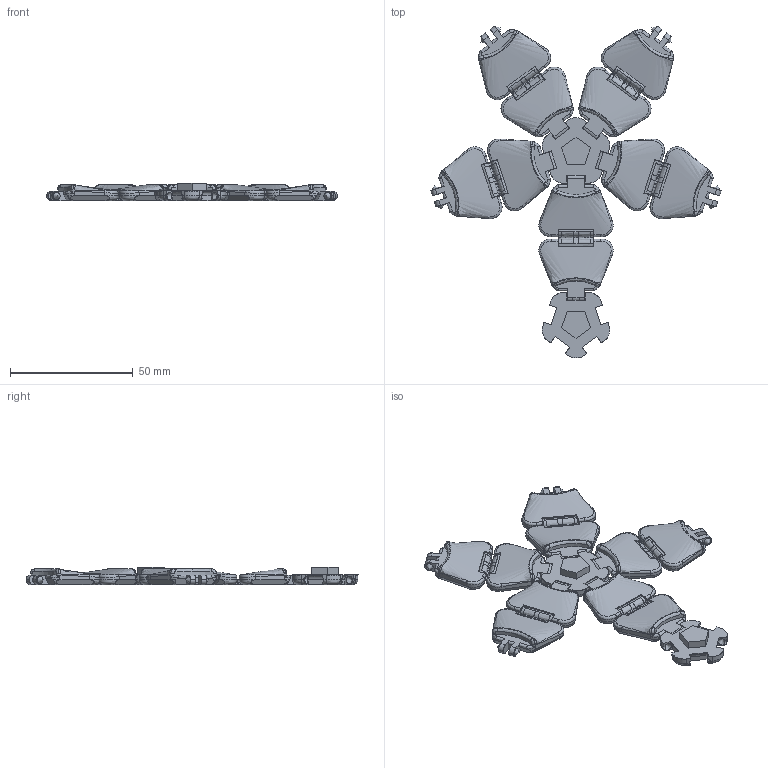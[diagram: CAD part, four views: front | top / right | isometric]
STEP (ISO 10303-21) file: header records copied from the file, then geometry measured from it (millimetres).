
FILE_DESCRIPTION(/* description */ ('STEP AP242 Edition 2','CAx-IF Rec.Pracs.---Representation and Presentation of Product Manufacturing Information (PMI)---4.0---2014-10-13','CAx-IF Rec.Pracs.---3D Tessellated Geometry---0.4---2014-09-14','2;1','CAx-IF Rec.Pracs.---User Defined Attributes---1.5---2016-08-15'),/* implementation_level */ '2;1');
FILE_NAME(/* name */ 'SquishyBallFidget',/* time_stamp */ '2026-04-27T13:48:57Z',/* author */ (''),/* organization */ (''),/* preprocessor_version */ 'ST-DEVELOPER v20',/* originating_system */ 'ONSHAPE BY PTC INC, 1.214',/* authorisation */ ' ');
FILE_SCHEMA (('AP242_MANAGED_MODEL_BASED_3D_ENGINEERING_MIM_LF { 1 0 10303 442 3 1 4 }'));
Products named in the file (17): Part 16; Part 1; Part 2; Part 3; Part 4; Part 5; Part 6; Part 7; Part 8; Part 9; Part 10; Part 11; Part 12; Part 13; Part 14; Part 15; Part 18
Bounding box: 118.61 x 135.48 x 7.2 mm (x, y, z)
Volume: 30197.1 mm3; surface area: 19502.5 mm2
Topology: 17 solids, 17 shells, 931 faces, 2575 edges, 1652 vertices
Faces by surface type: bspline 520, plane 303, cone 80, cylinder 28
Entity records: 157740 total; most frequent: CARTESIAN_POINT 139496, ORIENTED_EDGE 4718, EDGE_CURVE 2359, B_SPLINE_CURVE_WITH_KNOTS 1708, DIRECTION 1655, VERTEX_POINT 1616, FACE_BOUND 1085, EDGE_LOOP 1005
